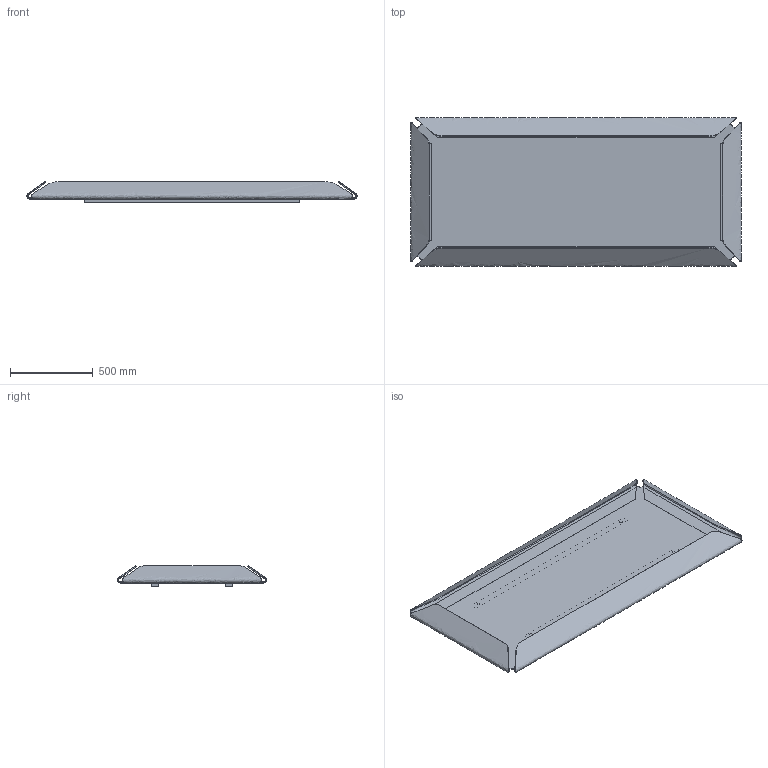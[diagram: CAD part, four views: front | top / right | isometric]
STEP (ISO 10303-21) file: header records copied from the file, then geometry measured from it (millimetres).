
FILE_DESCRIPTION(/* description */ (''),/* implementation_level */ '2;1');
FILE_NAME(/* name */ '390- Gallery Square 90x200',/* time_stamp */ '2010-11-02T14:43:35+01:00',/* author */ (''),/* organization */ (''),/* preprocessor_version */ 'ST-DEVELOPER v10',/* originating_system */ '',/* authorisation */ '');
FILE_SCHEMA (('CONFIG_CONTROL_DESIGN'));
Length unit declared in the file: centimetre
Products named in the file (1): 1
Bounding box: 2000 x 900 x 124.78 mm (x, y, z)
Volume: 18240726.2 mm3; surface area: 6345338.7 mm2
Topology: 7 solids, 7 shells, 88 faces, 222 edges, 148 vertices
Faces by surface type: bspline 74, plane 14
Entity records: 3690 total; most frequent: CARTESIAN_POINT 2232, ORIENTED_EDGE 444, EDGE_CURVE 222, B_SPLINE_CURVE_WITH_KNOTS 170, VERTEX_POINT 148, EDGE_LOOP 96, ADVANCED_FACE 88, FACE_OUTER_BOUND 88
